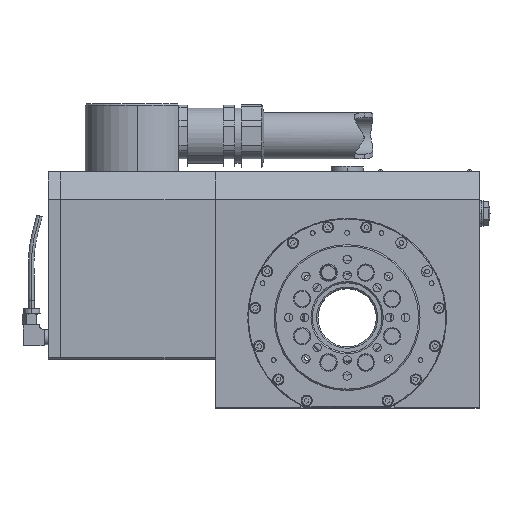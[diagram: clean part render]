
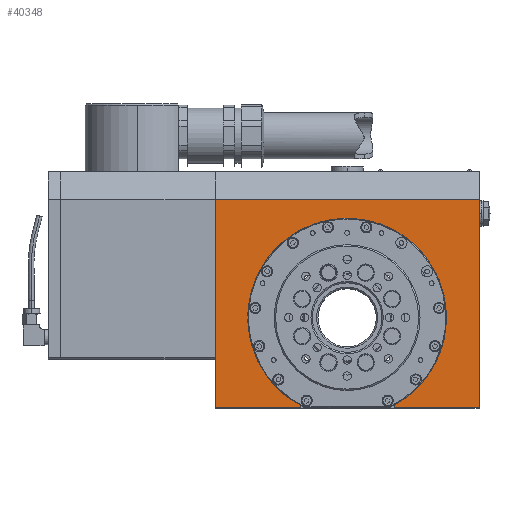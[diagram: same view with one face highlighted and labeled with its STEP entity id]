
A CAD part, top view. The second image highlights one B-rep face of the part: STEP entity #40348.
In plain terms, the highlighted planar face has unit normal (0, 0, 1).
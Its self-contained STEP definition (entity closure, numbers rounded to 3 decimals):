
#1985 = VECTOR ( 'NONE', #20437, 1000. ) ;
#2088 = ORIENTED_EDGE ( 'NONE', *, *, #3506, .F. ) ;
#2583 = FACE_OUTER_BOUND ( 'NONE', #7220, .T. ) ;
#3506 = EDGE_CURVE ( 'NONE', #11466, #50743, #40918, .T. ) ;
#3613 = VECTOR ( 'NONE', #33474, 1000. ) ;
#4317 = LINE ( 'NONE', #15716, #1985 ) ;
#4709 = VERTEX_POINT ( 'NONE', #10508 ) ;
#5350 = AXIS2_PLACEMENT_3D ( 'NONE', #9337, #37869, #41562 ) ;
#7123 = CARTESIAN_POINT ( 'NONE',  ( -33.812, -63., 52. ) ) ;
#7220 = EDGE_LOOP ( 'NONE', ( #42034, #2088, #46612, #38108, #30613, #27889, #47168, #13312 ) ) ;
#7614 = LINE ( 'NONE', #12100, #39911 ) ;
#8744 = VERTEX_POINT ( 'NONE', #52327 ) ;
#9186 = EDGE_CURVE ( 'NONE', #25608, #50743, #7614, .T. ) ;
#9270 = CARTESIAN_POINT ( 'NONE',  ( -95., -65., 52. ) ) ;
#9337 = CARTESIAN_POINT ( 'NONE',  ( 0., 0., 52. ) ) ;
#10054 = VERTEX_POINT ( 'NONE', #11651 ) ;
#10508 = CARTESIAN_POINT ( 'NONE',  ( 33.812, -65., 52. ) ) ;
#11466 = VERTEX_POINT ( 'NONE', #7123 ) ;
#11651 = CARTESIAN_POINT ( 'NONE',  ( -95., 85., 52. ) ) ;
#12100 = CARTESIAN_POINT ( 'NONE',  ( -95., -65., 52. ) ) ;
#13312 = ORIENTED_EDGE ( 'NONE', *, *, #34720, .T. ) ;
#13345 = VERTEX_POINT ( 'NONE', #48988 ) ;
#13716 = DIRECTION ( 'NONE',  ( 0., -1., 0. ) ) ;
#13892 = CARTESIAN_POINT ( 'NONE',  ( 33.812, -63., 52. ) ) ;
#15165 = VECTOR ( 'NONE', #44950, 1000. ) ;
#15402 = EDGE_CURVE ( 'NONE', #8744, #13345, #20530, .T. ) ;
#15716 = CARTESIAN_POINT ( 'NONE',  ( -95., 85., 52. ) ) ;
#17689 = DIRECTION ( 'NONE',  ( 0., 0., 1. ) ) ;
#17926 = CARTESIAN_POINT ( 'NONE',  ( -33.812, -65., 52. ) ) ;
#20437 = DIRECTION ( 'NONE',  ( 1., 0., 0. ) ) ;
#20530 = LINE ( 'NONE', #45100, #3613 ) ;
#21279 = EDGE_CURVE ( 'NONE', #10054, #13345, #4317, .T. ) ;
#21552 = CARTESIAN_POINT ( 'NONE',  ( -33.812, -63., 52. ) ) ;
#23818 = LINE ( 'NONE', #39389, #30056 ) ;
#23840 = CARTESIAN_POINT ( 'NONE',  ( -95., -65., 52. ) ) ;
#25608 = VERTEX_POINT ( 'NONE', #23840 ) ;
#27889 = ORIENTED_EDGE ( 'NONE', *, *, #15402, .T. ) ;
#28170 = CIRCLE ( 'NONE', #5350, 71.5 ) ;
#30056 = VECTOR ( 'NONE', #30976, 1000. ) ;
#30613 = ORIENTED_EDGE ( 'NONE', *, *, #52263, .T. ) ;
#30976 = DIRECTION ( 'NONE',  ( 0., 1., 0. ) ) ;
#31601 = VECTOR ( 'NONE', #44875, 1000. ) ;
#33474 = DIRECTION ( 'NONE',  ( 0., 1., 0. ) ) ;
#33794 = DIRECTION ( 'NONE',  ( 1., 0., 0. ) ) ;
#34720 = EDGE_CURVE ( 'NONE', #10054, #25608, #49665, .T. ) ;
#36164 = DIRECTION ( 'NONE',  ( 1., 0., 0. ) ) ;
#37869 = DIRECTION ( 'NONE',  ( 0., 0., -1. ) ) ;
#38108 = ORIENTED_EDGE ( 'NONE', *, *, #49209, .F. ) ;
#38789 = PLANE ( 'NONE',  #46368 ) ;
#39389 = CARTESIAN_POINT ( 'NONE',  ( 33.812, -63., 52. ) ) ;
#39911 = VECTOR ( 'NONE', #36164, 1000. ) ;
#40348 = ADVANCED_FACE ( 'NONE', ( #2583 ), #38789, .T. ) ;
#40918 = LINE ( 'NONE', #21552, #31601 ) ;
#41562 = DIRECTION ( 'NONE',  ( 1., 0., 0. ) ) ;
#42034 = ORIENTED_EDGE ( 'NONE', *, *, #9186, .T. ) ;
#44453 = EDGE_CURVE ( 'NONE', #11466, #49803, #28170, .T. ) ;
#44875 = DIRECTION ( 'NONE',  ( 0., -1., 0. ) ) ;
#44950 = DIRECTION ( 'NONE',  ( 1., 0., 0. ) ) ;
#45100 = CARTESIAN_POINT ( 'NONE',  ( 95., 105., 52. ) ) ;
#45475 = LINE ( 'NONE', #9270, #15165 ) ;
#46212 = CARTESIAN_POINT ( 'NONE',  ( 0., 0., 52. ) ) ;
#46368 = AXIS2_PLACEMENT_3D ( 'NONE', #46212, #17689, #33794 ) ;
#46612 = ORIENTED_EDGE ( 'NONE', *, *, #44453, .T. ) ;
#47168 = ORIENTED_EDGE ( 'NONE', *, *, #21279, .F. ) ;
#48988 = CARTESIAN_POINT ( 'NONE',  ( 95., 85., 52. ) ) ;
#49209 = EDGE_CURVE ( 'NONE', #4709, #49803, #23818, .T. ) ;
#49665 = LINE ( 'NONE', #49914, #51292 ) ;
#49803 = VERTEX_POINT ( 'NONE', #13892 ) ;
#49914 = CARTESIAN_POINT ( 'NONE',  ( -95., 105., 52. ) ) ;
#50743 = VERTEX_POINT ( 'NONE', #17926 ) ;
#51292 = VECTOR ( 'NONE', #13716, 1000. ) ;
#52263 = EDGE_CURVE ( 'NONE', #4709, #8744, #45475, .T. ) ;
#52327 = CARTESIAN_POINT ( 'NONE',  ( 95., -65., 52. ) ) ;
